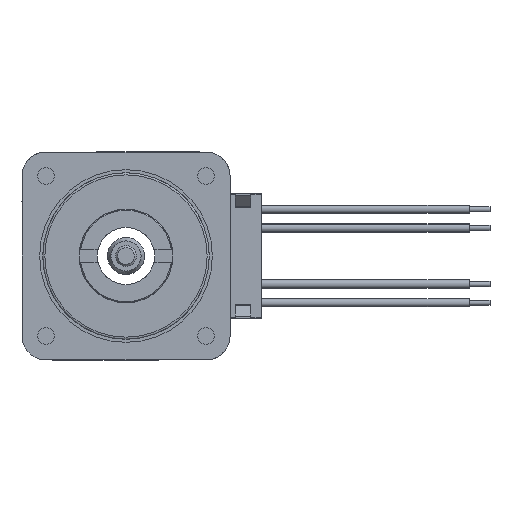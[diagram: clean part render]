
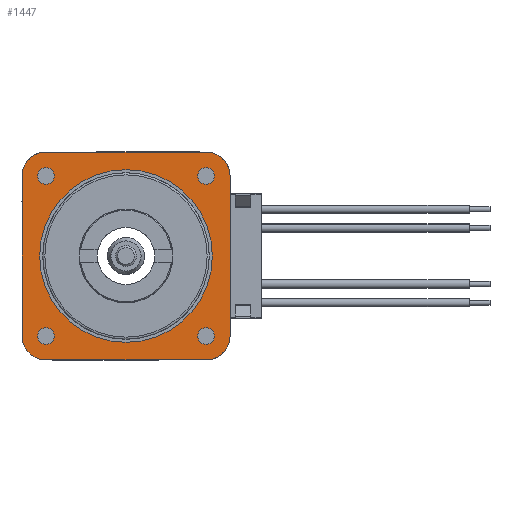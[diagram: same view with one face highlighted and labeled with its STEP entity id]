
A CAD part, left-side view. The second image highlights one B-rep face of the part: STEP entity #1447.
In plain terms, the highlighted planar face has unit normal (-1, 0, 0).
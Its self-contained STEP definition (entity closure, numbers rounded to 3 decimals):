
#1291=CARTESIAN_POINT('',(0.,-7.7,10.));
#1292=VERTEX_POINT('',#1291);
#1293=CARTESIAN_POINT('',(0.,-10.,7.7));
#1294=VERTEX_POINT('',#1293);
#1295=CARTESIAN_POINT('',(0.,-7.7,7.7));
#1296=DIRECTION('',(0.,0.,1.));
#1297=DIRECTION('',(1.,0.,0.));
#1298=AXIS2_PLACEMENT_3D('',#1295,#1297,#1296);
#1299=CIRCLE('',#1298,2.3);
#1300=EDGE_CURVE('',#1292,#1294,#1299,.T.);
#1327=CARTESIAN_POINT('',(0.,0.,0.));
#1328=DIRECTION('',(0.,1.,0.));
#1329=DIRECTION('',(-1.,0.,-0.));
#1330=AXIS2_PLACEMENT_3D('',#1327,#1329,#1328);
#1331=PLANE('',#1330);
#1332=CARTESIAN_POINT('',(0.,7.7,-10.));
#1333=VERTEX_POINT('',#1332);
#1334=CARTESIAN_POINT('',(0.,-7.7,-10.));
#1335=VERTEX_POINT('',#1334);
#1336=CARTESIAN_POINT('',(0.,7.7,-10.));
#1337=DIRECTION('',(0.,-1.,0.));
#1338=VECTOR('',#1337,15.4);
#1339=LINE('',#1336,#1338);
#1340=EDGE_CURVE('',#1333,#1335,#1339,.T.);
#1341=ORIENTED_EDGE('E135',*,*,#1340,.T.);
#1342=CARTESIAN_POINT('',(0.,-10.,-7.7));
#1343=VERTEX_POINT('',#1342);
#1344=CARTESIAN_POINT('',(0.,-7.7,-7.7));
#1345=DIRECTION('',(0.,0.,-1.));
#1346=DIRECTION('',(-1.,0.,0.));
#1347=AXIS2_PLACEMENT_3D('',#1344,#1346,#1345);
#1348=CIRCLE('',#1347,2.3);
#1349=EDGE_CURVE('',#1335,#1343,#1348,.T.);
#1350=ORIENTED_EDGE('E136',*,*,#1349,.T.);
#1351=CARTESIAN_POINT('',(0.,-10.,-7.7));
#1352=DIRECTION('',(0.,0.,1.));
#1353=VECTOR('',#1352,15.4);
#1354=LINE('',#1351,#1353);
#1355=EDGE_CURVE('',#1343,#1294,#1354,.T.);
#1356=ORIENTED_EDGE('E137',*,*,#1355,.T.);
#1357=ORIENTED_EDGE('E137',*,*,#1300,.F.);
#1358=CARTESIAN_POINT('',(0.,7.7,10.));
#1359=VERTEX_POINT('',#1358);
#1360=CARTESIAN_POINT('',(0.,-7.7,10.));
#1361=DIRECTION('',(0.,1.,0.));
#1362=VECTOR('',#1361,15.4);
#1363=LINE('',#1360,#1362);
#1364=EDGE_CURVE('',#1292,#1359,#1363,.T.);
#1365=ORIENTED_EDGE('E138',*,*,#1364,.T.);
#1366=CARTESIAN_POINT('',(0.,10.,7.7));
#1367=VERTEX_POINT('',#1366);
#1368=CARTESIAN_POINT('',(0.,7.7,7.7));
#1369=DIRECTION('',(0.,0.,1.));
#1370=DIRECTION('',(-1.,0.,0.));
#1371=AXIS2_PLACEMENT_3D('',#1368,#1370,#1369);
#1372=CIRCLE('',#1371,2.3);
#1373=EDGE_CURVE('',#1359,#1367,#1372,.T.);
#1374=ORIENTED_EDGE('E139',*,*,#1373,.T.);
#1375=CARTESIAN_POINT('',(0.,10.,-7.7));
#1376=VERTEX_POINT('',#1375);
#1377=CARTESIAN_POINT('',(0.,10.,7.7));
#1378=DIRECTION('',(0.,0.,-1.));
#1379=VECTOR('',#1378,15.4);
#1380=LINE('',#1377,#1379);
#1381=EDGE_CURVE('',#1367,#1376,#1380,.T.);
#1382=ORIENTED_EDGE('E140',*,*,#1381,.T.);
#1383=CARTESIAN_POINT('',(0.,7.7,-7.7));
#1384=DIRECTION('',(0.,1.,0.));
#1385=DIRECTION('',(-1.,0.,0.));
#1386=AXIS2_PLACEMENT_3D('',#1383,#1385,#1384);
#1387=CIRCLE('',#1386,2.3);
#1388=EDGE_CURVE('',#1376,#1333,#1387,.T.);
#1389=ORIENTED_EDGE('E141',*,*,#1388,.T.);
#1390=EDGE_LOOP('',(#1341,#1350,#1356,#1357,#1365,#1374,#1382,#1389));
#1391=FACE_OUTER_BOUND('',#1390,.T.);
#1392=CARTESIAN_POINT('',(0.,8.3,0.));
#1393=VERTEX_POINT('',#1392);
#1394=CARTESIAN_POINT('',(0.,0.,0.));
#1395=DIRECTION('',(-0.,1.,0.));
#1396=DIRECTION('',(1.,0.,-0.));
#1397=AXIS2_PLACEMENT_3D('',#1394,#1396,#1395);
#1398=CIRCLE('',#1397,8.3);
#1399=EDGE_CURVE('',#1393,#1393,#1398,.T.);
#1400=ORIENTED_EDGE('E142',*,*,#1399,.T.);
#1401=EDGE_LOOP('',(#1400));
#1402=FACE_BOUND('',#1401,.T.);
#1403=CARTESIAN_POINT('',(0.,-7.7,8.5));
#1404=VERTEX_POINT('',#1403);
#1405=CARTESIAN_POINT('',(0.,-7.7,7.7));
#1406=DIRECTION('',(-0.,-0.,1.));
#1407=DIRECTION('',(1.,0.,0.));
#1408=AXIS2_PLACEMENT_3D('',#1405,#1407,#1406);
#1409=CIRCLE('',#1408,0.8);
#1410=EDGE_CURVE('',#1404,#1404,#1409,.T.);
#1411=ORIENTED_EDGE('E143',*,*,#1410,.T.);
#1412=EDGE_LOOP('',(#1411));
#1413=FACE_BOUND('',#1412,.T.);
#1414=CARTESIAN_POINT('',(0.,7.7,8.5));
#1415=VERTEX_POINT('',#1414);
#1416=CARTESIAN_POINT('',(0.,7.7,7.7));
#1417=DIRECTION('',(-0.,-0.,1.));
#1418=DIRECTION('',(1.,0.,0.));
#1419=AXIS2_PLACEMENT_3D('',#1416,#1418,#1417);
#1420=CIRCLE('',#1419,0.8);
#1421=EDGE_CURVE('',#1415,#1415,#1420,.T.);
#1422=ORIENTED_EDGE('E144',*,*,#1421,.T.);
#1423=EDGE_LOOP('',(#1422));
#1424=FACE_BOUND('',#1423,.T.);
#1425=CARTESIAN_POINT('',(0.,-7.7,-6.9));
#1426=VERTEX_POINT('',#1425);
#1427=CARTESIAN_POINT('',(0.,-7.7,-7.7));
#1428=DIRECTION('',(-0.,0.,1.));
#1429=DIRECTION('',(1.,0.,0.));
#1430=AXIS2_PLACEMENT_3D('',#1427,#1429,#1428);
#1431=CIRCLE('',#1430,0.8);
#1432=EDGE_CURVE('',#1426,#1426,#1431,.T.);
#1433=ORIENTED_EDGE('E145',*,*,#1432,.T.);
#1434=EDGE_LOOP('',(#1433));
#1435=FACE_BOUND('',#1434,.T.);
#1436=CARTESIAN_POINT('',(0.,7.7,-6.9));
#1437=VERTEX_POINT('',#1436);
#1438=CARTESIAN_POINT('',(0.,7.7,-7.7));
#1439=DIRECTION('',(-0.,0.,1.));
#1440=DIRECTION('',(1.,0.,0.));
#1441=AXIS2_PLACEMENT_3D('',#1438,#1440,#1439);
#1442=CIRCLE('',#1441,0.8);
#1443=EDGE_CURVE('',#1437,#1437,#1442,.T.);
#1444=ORIENTED_EDGE('E146',*,*,#1443,.T.);
#1445=EDGE_LOOP('',(#1444));
#1446=FACE_BOUND('',#1445,.T.);
#1447=ADVANCED_FACE('F24',(#1391,#1402,#1413,#1424,#1435,#1446),#1331,.T.);
